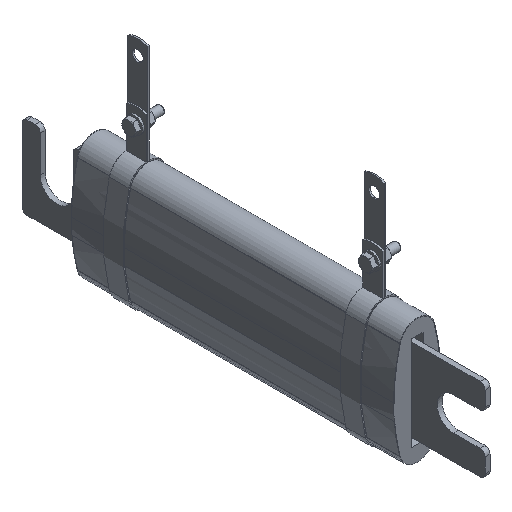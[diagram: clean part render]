
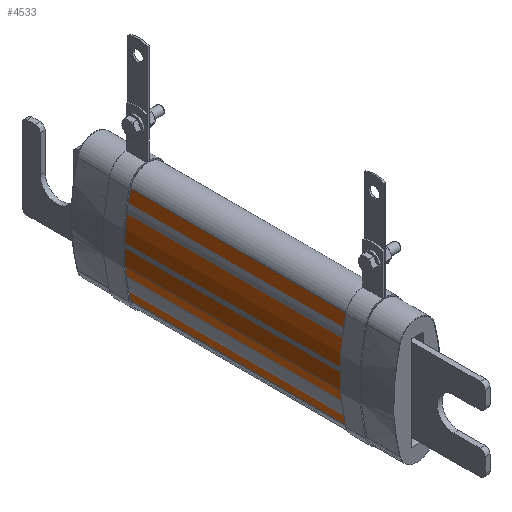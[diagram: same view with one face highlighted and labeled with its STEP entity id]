
A CAD part, isometric view. The second image highlights one B-rep face of the part: STEP entity #4533.
In plain terms, the highlighted cylindrical face has radius 120.068 mm (diameter 240.136 mm), a partial arc.
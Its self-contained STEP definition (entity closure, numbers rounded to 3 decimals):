
#177=FACE_OUTER_BOUND($,#915,.T.);
#545=CIRCLE($,#4878,120.068);
#546=CIRCLE($,#4879,120.068);
#915=EDGE_LOOP($,(#3319,#3320,#3321,#3322));
#1344=LINE($,#7119,#1662);
#1347=LINE($,#7137,#1665);
#1662=VECTOR($,#5750,131.);
#1665=VECTOR($,#5771,131.);
#1971=VERTEX_POINT($,#7115);
#1972=VERTEX_POINT($,#7117);
#1977=VERTEX_POINT($,#7133);
#1978=VERTEX_POINT($,#7135);
#2470=EDGE_CURVE($,#1972,#1971,#1344,.T.);
#2477=EDGE_CURVE($,#1971,#1977,#545,.T.);
#2478=EDGE_CURVE($,#1978,#1972,#546,.T.);
#2479=EDGE_CURVE($,#1978,#1977,#1347,.T.);
#3319=ORIENTED_EDGE($,*,*,#2477,.F.);
#3320=ORIENTED_EDGE($,*,*,#2470,.F.);
#3321=ORIENTED_EDGE($,*,*,#2478,.F.);
#3322=ORIENTED_EDGE($,*,*,#2479,.T.);
#4105=CYLINDRICAL_SURFACE($,#4877,120.068);
#4533=ADVANCED_FACE($,(#177),#4105,.T.);
#4877=AXIS2_PLACEMENT_3D($,#7132,#5765,#5766);
#4878=AXIS2_PLACEMENT_3D($,#7134,#5767,#5768);
#4879=AXIS2_PLACEMENT_3D($,#7136,#5769,#5770);
#5750=DIRECTION($,(0.,1.,0.));
#5765=DIRECTION('center_axis',(0.,1.,0.));
#5766=DIRECTION('ref_axis',(-0.969,0.,-0.246));
#5767=DIRECTION('center_axis',(0.,1.,0.));
#5768=DIRECTION('ref_axis',(-0.969,0.,-0.246));
#5769=DIRECTION('center_axis',(0.,-1.,0.));
#5770=DIRECTION('ref_axis',(-0.969,0.,-0.246));
#5771=DIRECTION($,(0.,1.,0.));
#7115=CARTESIAN_POINT('',(-65.107,65.5,-51.031));
#7117=CARTESIAN_POINT('',(-65.107,-65.5,-51.031));
#7119=CARTESIAN_POINT($,(-65.107,0.,-51.031));
#7132=CARTESIAN_POINT('Origin',(51.268,0.,
-21.481));
#7133=CARTESIAN_POINT('',(-65.107,65.5,8.068));
#7134=CARTESIAN_POINT('Origin',(51.268,65.5,-21.481));
#7135=CARTESIAN_POINT('',(-65.107,-65.5,8.068));
#7136=CARTESIAN_POINT('Origin',(51.268,-65.5,-21.481));
#7137=CARTESIAN_POINT($,(-65.107,0.,8.068));
